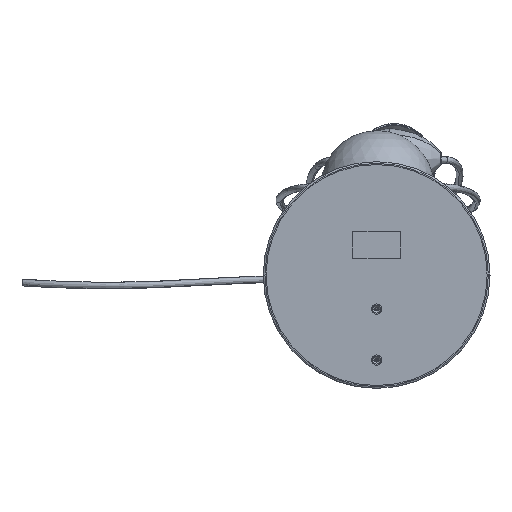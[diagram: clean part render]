
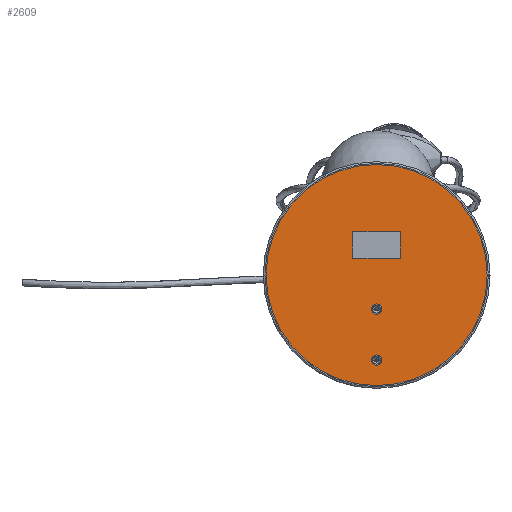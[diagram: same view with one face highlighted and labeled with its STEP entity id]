
A CAD part, front view. The second image highlights one B-rep face of the part: STEP entity #2609.
In plain terms, the highlighted planar face has unit normal (0, -1, 0).
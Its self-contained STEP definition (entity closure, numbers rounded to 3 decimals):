
#699 = CARTESIAN_POINT ( 'NONE',  ( -132.896, 43.1, -57.736 ) ) ;
#1426 = DIRECTION ( 'NONE',  ( 0., 1., 0. ) ) ;
#1862 = DIRECTION ( 'NONE',  ( 0., 1., 0. ) ) ;
#1980 = EDGE_LOOP ( 'NONE', ( #13182, #6317 ) ) ;
#2609 = ADVANCED_FACE ( 'NONE', ( #17567, #29575, #29260, #21831 ), #21984, .F. ) ;
#2971 = VERTEX_POINT ( 'NONE', #29300 ) ;
#2975 = EDGE_CURVE ( 'NONE', #22370, #27168, #5902, .T. ) ;
#3480 = CARTESIAN_POINT ( 'NONE',  ( -132.896, 43.1, -35.236 ) ) ;
#3770 = ORIENTED_EDGE ( 'NONE', *, *, #5906, .T. ) ;
#3792 = CARTESIAN_POINT ( 'NONE',  ( -132.896, 43.1, 5.264 ) ) ;
#3876 = DIRECTION ( 'NONE',  ( 0., 0., -1. ) ) ;
#4041 = AXIS2_PLACEMENT_3D ( 'NONE', #3480, #1426, #15878 ) ;
#4460 = DIRECTION ( 'NONE',  ( 0., 0., -1. ) ) ;
#4509 = DIRECTION ( 'NONE',  ( 0., 0., 1. ) ) ;
#4881 = DIRECTION ( 'NONE',  ( 0., 0., -1. ) ) ;
#4889 = AXIS2_PLACEMENT_3D ( 'NONE', #22498, #10743, #25161 ) ;
#5381 = VERTEX_POINT ( 'NONE', #3792 ) ;
#5902 = CIRCLE ( 'NONE', #30199, 97.5 ) ;
#5906 = EDGE_CURVE ( 'NONE', #23993, #5381, #29655, .T. ) ;
#6317 = ORIENTED_EDGE ( 'NONE', *, *, #14803, .F. ) ;
#6478 = VECTOR ( 'NONE', #4881, 1000. ) ;
#6571 = EDGE_CURVE ( 'NONE', #17882, #23677, #29457, .T. ) ;
#6743 = EDGE_LOOP ( 'NONE', ( #22788, #25902 ) ) ;
#6780 = CARTESIAN_POINT ( 'NONE',  ( -132.896, 43.1, 9.764 ) ) ;
#6831 = EDGE_CURVE ( 'NONE', #2971, #19475, #18581, .T. ) ;
#8485 = DIRECTION ( 'NONE',  ( 0., 0., -1. ) ) ;
#9215 = EDGE_LOOP ( 'NONE', ( #10048, #10661, #29890, #15437 ) ) ;
#9600 = DIRECTION ( 'NONE',  ( 0., 0., -1. ) ) ;
#9858 = ORIENTED_EDGE ( 'NONE', *, *, #18231, .T. ) ;
#9975 = DIRECTION ( 'NONE',  ( -1., 0., 0. ) ) ;
#10048 = ORIENTED_EDGE ( 'NONE', *, *, #20553, .T. ) ;
#10316 = AXIS2_PLACEMENT_3D ( 'NONE', #27347, #15348, #13107 ) ;
#10661 = ORIENTED_EDGE ( 'NONE', *, *, #6571, .T. ) ;
#10666 = LINE ( 'NONE', #29384, #13478 ) ;
#10743 = DIRECTION ( 'NONE',  ( 0., 1., 0. ) ) ;
#12044 = CARTESIAN_POINT ( 'NONE',  ( -132.896, 43.1, 39.764 ) ) ;
#12368 = CARTESIAN_POINT ( 'NONE',  ( -153.896, 43.1, 77.764 ) ) ;
#12490 = VERTEX_POINT ( 'NONE', #26369 ) ;
#12957 = CARTESIAN_POINT ( 'NONE',  ( -132.896, 43.1, -30.736 ) ) ;
#13101 = CARTESIAN_POINT ( 'NONE',  ( -132.896, 43.1, 9.764 ) ) ;
#13107 = DIRECTION ( 'NONE',  ( 0., 0., -1. ) ) ;
#13182 = ORIENTED_EDGE ( 'NONE', *, *, #2975, .F. ) ;
#13446 = CARTESIAN_POINT ( 'NONE',  ( -153.896, 43.1, 54.764 ) ) ;
#13478 = VECTOR ( 'NONE', #22574, 1000. ) ;
#14482 = AXIS2_PLACEMENT_3D ( 'NONE', #13101, #27658, #3876 ) ;
#14650 = DIRECTION ( 'NONE',  ( 0., 1., 0. ) ) ;
#14710 = CARTESIAN_POINT ( 'NONE',  ( -132.896, 43.1, 14.264 ) ) ;
#14803 = EDGE_CURVE ( 'NONE', #27168, #22370, #23592, .T. ) ;
#15348 = DIRECTION ( 'NONE',  ( 0., 1., 0. ) ) ;
#15437 = ORIENTED_EDGE ( 'NONE', *, *, #18535, .T. ) ;
#15878 = DIRECTION ( 'NONE',  ( 0., 0., -1. ) ) ;
#16424 = LINE ( 'NONE', #19123, #17373 ) ;
#16532 = CARTESIAN_POINT ( 'NONE',  ( -132.896, 43.1, 39.764 ) ) ;
#17373 = VECTOR ( 'NONE', #4509, 1000. ) ;
#17567 = FACE_BOUND ( 'NONE', #6743, .T. ) ;
#17882 = VERTEX_POINT ( 'NONE', #29405 ) ;
#18011 = EDGE_LOOP ( 'NONE', ( #3770, #9858 ) ) ;
#18231 = EDGE_CURVE ( 'NONE', #5381, #23993, #21542, .T. ) ;
#18535 = EDGE_CURVE ( 'NONE', #23250, #12490, #10666, .T. ) ;
#18581 = CIRCLE ( 'NONE', #4889, 4.5 ) ;
#19011 = LINE ( 'NONE', #26577, #6478 ) ;
#19123 = CARTESIAN_POINT ( 'NONE',  ( -153.896, 43.1, 54.764 ) ) ;
#19475 = VERTEX_POINT ( 'NONE', #12957 ) ;
#19573 = AXIS2_PLACEMENT_3D ( 'NONE', #16532, #14650, #4460 ) ;
#20553 = EDGE_CURVE ( 'NONE', #12490, #17882, #19011, .T. ) ;
#21542 = CIRCLE ( 'NONE', #14482, 4.5 ) ;
#21831 = FACE_BOUND ( 'NONE', #9215, .T. ) ;
#21984 = PLANE ( 'NONE',  #10316 ) ;
#21987 = EDGE_CURVE ( 'NONE', #19475, #2971, #27328, .T. ) ;
#22370 = VERTEX_POINT ( 'NONE', #25820 ) ;
#22498 = CARTESIAN_POINT ( 'NONE',  ( -132.896, 43.1, -35.236 ) ) ;
#22574 = DIRECTION ( 'NONE',  ( 1., 0., 0. ) ) ;
#22788 = ORIENTED_EDGE ( 'NONE', *, *, #21987, .T. ) ;
#23100 = VECTOR ( 'NONE', #9975, 1000. ) ;
#23250 = VERTEX_POINT ( 'NONE', #12368 ) ;
#23592 = CIRCLE ( 'NONE', #19573, 97.5 ) ;
#23677 = VERTEX_POINT ( 'NONE', #13446 ) ;
#23993 = VERTEX_POINT ( 'NONE', #14710 ) ;
#24558 = CARTESIAN_POINT ( 'NONE',  ( -111.896, 43.1, 54.764 ) ) ;
#25161 = DIRECTION ( 'NONE',  ( 0., 0., -1. ) ) ;
#25820 = CARTESIAN_POINT ( 'NONE',  ( -132.896, 43.1, 137.264 ) ) ;
#25902 = ORIENTED_EDGE ( 'NONE', *, *, #6831, .T. ) ;
#26369 = CARTESIAN_POINT ( 'NONE',  ( -111.896, 43.1, 77.764 ) ) ;
#26577 = CARTESIAN_POINT ( 'NONE',  ( -111.896, 43.1, 54.764 ) ) ;
#27168 = VERTEX_POINT ( 'NONE', #699 ) ;
#27328 = CIRCLE ( 'NONE', #4041, 4.5 ) ;
#27347 = CARTESIAN_POINT ( 'NONE',  ( -132.896, 43.1, 39.764 ) ) ;
#27658 = DIRECTION ( 'NONE',  ( 0., 1., 0. ) ) ;
#29260 = FACE_OUTER_BOUND ( 'NONE', #1980, .T. ) ;
#29300 = CARTESIAN_POINT ( 'NONE',  ( -132.896, 43.1, -39.736 ) ) ;
#29384 = CARTESIAN_POINT ( 'NONE',  ( -111.896, 43.1, 77.764 ) ) ;
#29405 = CARTESIAN_POINT ( 'NONE',  ( -111.896, 43.1, 54.764 ) ) ;
#29457 = LINE ( 'NONE', #24558, #23100 ) ;
#29575 = FACE_BOUND ( 'NONE', #18011, .T. ) ;
#29655 = CIRCLE ( 'NONE', #30685, 4.5 ) ;
#29890 = ORIENTED_EDGE ( 'NONE', *, *, #30234, .T. ) ;
#30196 = DIRECTION ( 'NONE',  ( 0., 1., 0. ) ) ;
#30199 = AXIS2_PLACEMENT_3D ( 'NONE', #12044, #30196, #8485 ) ;
#30234 = EDGE_CURVE ( 'NONE', #23677, #23250, #16424, .T. ) ;
#30685 = AXIS2_PLACEMENT_3D ( 'NONE', #6780, #1862, #9600 ) ;
